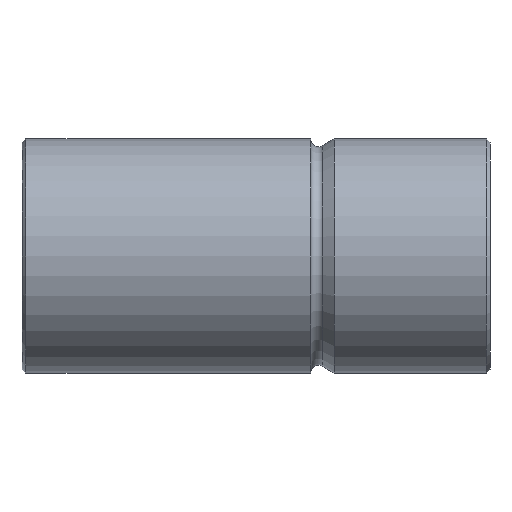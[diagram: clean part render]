
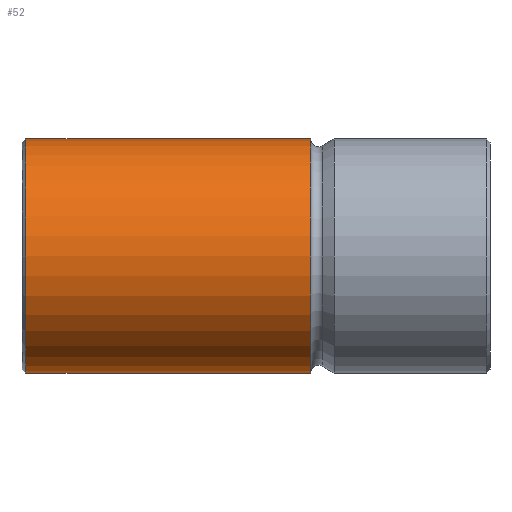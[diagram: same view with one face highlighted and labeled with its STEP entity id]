
A CAD part, front view. The second image highlights one B-rep face of the part: STEP entity #52.
In plain terms, the highlighted cylindrical face has radius 15.02 mm (diameter 30.04 mm), a full revolution.
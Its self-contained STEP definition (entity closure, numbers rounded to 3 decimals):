
#52 = ADVANCED_FACE( '', ( #113, #114, #115 ), #116, .T. );
#113 = FACE_OUTER_BOUND( '', #186, .T. );
#114 = FACE_BOUND( '', #187, .T. );
#115 = FACE_OUTER_BOUND( '', #188, .T. );
#116 = CYLINDRICAL_SURFACE( '', #189, 15.02 );
#186 = EDGE_LOOP( '', ( #265 ) );
#187 = EDGE_LOOP( '', ( #266 ) );
#188 = EDGE_LOOP( '', ( #267 ) );
#189 = AXIS2_PLACEMENT_3D( '', #268, #269, #270 );
#265 = ORIENTED_EDGE( '', *, *, #343, .T. );
#266 = ORIENTED_EDGE( '', *, *, #331, .T. );
#267 = ORIENTED_EDGE( '', *, *, #344, .F. );
#268 = CARTESIAN_POINT( '', ( 0., 0., 0. ) );
#269 = DIRECTION( '', ( -1., 0., 0. ) );
#270 = DIRECTION( '', ( 0., 0., -1. ) );
#331 = EDGE_CURVE( '', #367, #367, #368, .T. );
#343 = EDGE_CURVE( '', #386, #386, #387, .T. );
#344 = EDGE_CURVE( '', #388, #388, #389, .T. );
#367 = VERTEX_POINT( '', #466 );
#368 = B_SPLINE_CURVE_WITH_KNOTS( '', 3, ( #467, #468, #469, #470, #471, #472, #473, #474, #475, #476, #477, #478, #479, #480, #481, #482, #483, #484, #485, #486, #487, #488, #489, #490, #491, #492, #493, #494, #495, #496, #497, #498, #499, #500, #501, #502, #503, #504, #505, #506, #507, #508, #509, #510, #511, #512, #513, #514, #515, #516, #517, #518, #519, #520, #521, #522, #523, #524, #525, #526 ), .UNSPECIFIED., .T., .F., ( 2, 2, 2, 2, 2, 2, 2, 2, 2, 2, 2, 2, 2, 2, 2, 2, 2, 2, 2, 2, 2, 2, 2, 2, 2, 2, 2, 2, 2, 2, 2, 2 ), ( 0., 0., 0., 0.001, 0.001, 0.002, 0.003, 0.003, 0.004, 0.004, 0.005, 0.005, 0.006, 0.006, 0.007, 0.007, 0.008, 0.009, 0.009, 0.01, 0.01, 0.011, 0.011, 0.012, 0.012, 0.013, 0.013, 0.014, 0.015, 0.015, 0.016, 0.016 ), .UNSPECIFIED. );
#386 = VERTEX_POINT( '', #544 );
#387 = CIRCLE( '', #545, 15.02 );
#388 = VERTEX_POINT( '', #546 );
#389 = CIRCLE( '', #547, 15.02 );
#466 = CARTESIAN_POINT( '', ( -50., 14.81, -2.5 ) );
#467 = CARTESIAN_POINT( '', ( -50.165, 14.81, -2.5 ) );
#468 = CARTESIAN_POINT( '', ( -49.835, 14.81, -2.5 ) );
#469 = CARTESIAN_POINT( '', ( -49.672, 14.813, -2.484 ) );
#470 = CARTESIAN_POINT( '', ( -49.352, 14.824, -2.42 ) );
#471 = CARTESIAN_POINT( '', ( -49.193, 14.832, -2.372 ) );
#472 = CARTESIAN_POINT( '', ( -48.89, 14.851, -2.246 ) );
#473 = CARTESIAN_POINT( '', ( -48.747, 14.863, -2.169 ) );
#474 = CARTESIAN_POINT( '', ( -48.475, 14.888, -1.988 ) );
#475 = CARTESIAN_POINT( '', ( -48.347, 14.902, -1.883 ) );
#476 = CARTESIAN_POINT( '', ( -48.002, 14.943, -1.537 ) );
#477 = CARTESIAN_POINT( '', ( -47.816, 14.97, -1.259 ) );
#478 = CARTESIAN_POINT( '', ( -47.629, 14.999, -0.808 ) );
#479 = CARTESIAN_POINT( '', ( -47.58, 15.007, -0.65 ) );
#480 = CARTESIAN_POINT( '', ( -47.516, 15.017, -0.327 ) );
#481 = CARTESIAN_POINT( '', ( -47.5, 15.02, -0.165 ) );
#482 = CARTESIAN_POINT( '', ( -47.5, 15.02, 0.162 ) );
#483 = CARTESIAN_POINT( '', ( -47.516, 15.017, 0.328 ) );
#484 = CARTESIAN_POINT( '', ( -47.58, 15.007, 0.649 ) );
#485 = CARTESIAN_POINT( '', ( -47.627, 14.999, 0.805 ) );
#486 = CARTESIAN_POINT( '', ( -47.753, 14.98, 1.108 ) );
#487 = CARTESIAN_POINT( '', ( -47.831, 14.968, 1.254 ) );
#488 = CARTESIAN_POINT( '', ( -48.012, 14.943, 1.524 ) );
#489 = CARTESIAN_POINT( '', ( -48.115, 14.929, 1.651 ) );
#490 = CARTESIAN_POINT( '', ( -48.348, 14.902, 1.884 ) );
#491 = CARTESIAN_POINT( '', ( -48.474, 14.888, 1.987 ) );
#492 = CARTESIAN_POINT( '', ( -48.744, 14.863, 2.168 ) );
#493 = CARTESIAN_POINT( '', ( -48.891, 14.851, 2.246 ) );
#494 = CARTESIAN_POINT( '', ( -49.193, 14.832, 2.372 ) );
#495 = CARTESIAN_POINT( '', ( -49.349, 14.824, 2.419 ) );
#496 = CARTESIAN_POINT( '', ( -49.67, 14.813, 2.484 ) );
#497 = CARTESIAN_POINT( '', ( -49.836, 14.81, 2.5 ) );
#498 = CARTESIAN_POINT( '', ( -50.326, 14.81, 2.5 ) );
#499 = CARTESIAN_POINT( '', ( -50.655, 14.822, 2.435 ) );
#500 = CARTESIAN_POINT( '', ( -51.107, 14.851, 2.248 ) );
#501 = CARTESIAN_POINT( '', ( -51.252, 14.863, 2.17 ) );
#502 = CARTESIAN_POINT( '', ( -51.525, 14.888, 1.988 ) );
#503 = CARTESIAN_POINT( '', ( -51.651, 14.902, 1.885 ) );
#504 = CARTESIAN_POINT( '', ( -51.881, 14.929, 1.654 ) );
#505 = CARTESIAN_POINT( '', ( -51.987, 14.943, 1.526 ) );
#506 = CARTESIAN_POINT( '', ( -52.168, 14.968, 1.255 ) );
#507 = CARTESIAN_POINT( '', ( -52.245, 14.98, 1.112 ) );
#508 = CARTESIAN_POINT( '', ( -52.371, 14.999, 0.809 ) );
#509 = CARTESIAN_POINT( '', ( -52.419, 15.007, 0.65 ) );
#510 = CARTESIAN_POINT( '', ( -52.483, 15.017, 0.33 ) );
#511 = CARTESIAN_POINT( '', ( -52.5, 15.02, 0.167 ) );
#512 = CARTESIAN_POINT( '', ( -52.5, 15.02, -0.163 ) );
#513 = CARTESIAN_POINT( '', ( -52.484, 15.017, -0.326 ) );
#514 = CARTESIAN_POINT( '', ( -52.421, 15.007, -0.646 ) );
#515 = CARTESIAN_POINT( '', ( -52.372, 14.999, -0.805 ) );
#516 = CARTESIAN_POINT( '', ( -52.247, 14.98, -1.107 ) );
#517 = CARTESIAN_POINT( '', ( -52.171, 14.968, -1.251 ) );
#518 = CARTESIAN_POINT( '', ( -51.989, 14.943, -1.523 ) );
#519 = CARTESIAN_POINT( '', ( -51.884, 14.929, -1.651 ) );
#520 = CARTESIAN_POINT( '', ( -51.539, 14.889, -1.997 ) );
#521 = CARTESIAN_POINT( '', ( -51.261, 14.861, -2.183 ) );
#522 = CARTESIAN_POINT( '', ( -50.81, 14.832, -2.371 ) );
#523 = CARTESIAN_POINT( '', ( -50.652, 14.824, -2.419 ) );
#524 = CARTESIAN_POINT( '', ( -50.329, 14.813, -2.484 ) );
#525 = CARTESIAN_POINT( '', ( -50.165, 14.81, -2.5 ) );
#526 = CARTESIAN_POINT( '', ( -49.835, 14.81, -2.5 ) );
#544 = CARTESIAN_POINT( '', ( -59.5, 0., -15.02 ) );
#545 = AXIS2_PLACEMENT_3D( '', #591, #592, #593 );
#546 = CARTESIAN_POINT( '', ( -23., 0., -15.02 ) );
#547 = AXIS2_PLACEMENT_3D( '', #594, #595, #596 );
#591 = CARTESIAN_POINT( '', ( -59.5, 0., 0. ) );
#592 = DIRECTION( '', ( 1., 0., 0. ) );
#593 = DIRECTION( '', ( 0., 0., -1. ) );
#594 = CARTESIAN_POINT( '', ( -23., 0., 0. ) );
#595 = DIRECTION( '', ( 1., 0., 0. ) );
#596 = DIRECTION( '', ( 0., 0., -1. ) );
